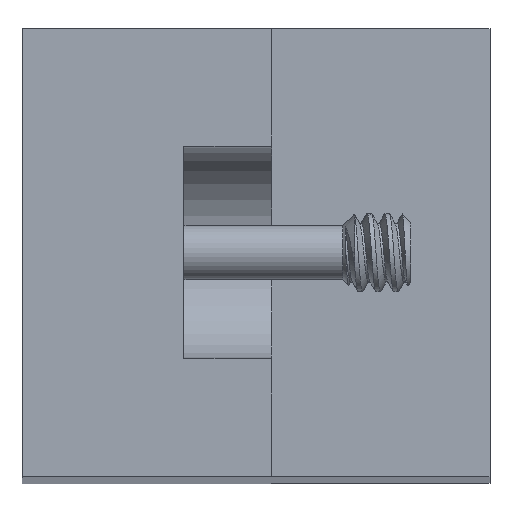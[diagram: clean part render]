
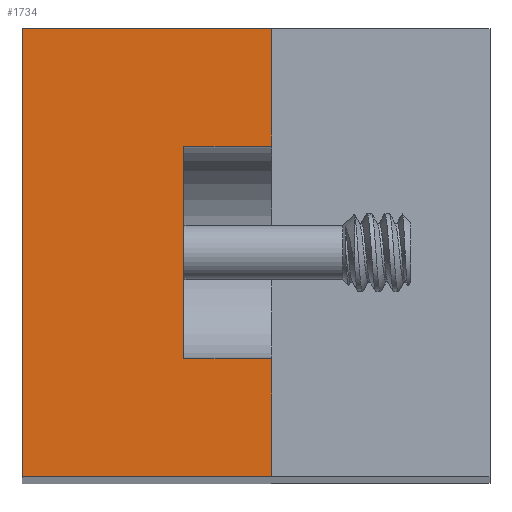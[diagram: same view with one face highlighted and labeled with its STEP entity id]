
A CAD part, top view. The second image highlights one B-rep face of the part: STEP entity #1734.
In plain terms, the highlighted planar face has unit normal (0, 0, 1) as drawn and (0, 1, 0) by its records, which use the part's own axes.
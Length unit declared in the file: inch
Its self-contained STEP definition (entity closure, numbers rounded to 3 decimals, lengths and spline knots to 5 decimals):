
#1561=CARTESIAN_POINT('',(0.2075,7.215,-0.285));
#1562=VERTEX_POINT('',#1561);
#1577=CARTESIAN_POINT('',(0.2075,7.215,-0.44));
#1578=VERTEX_POINT('',#1577);
#1585=CARTESIAN_POINT('',(0.2075,7.215,-0.285));
#1586=DIRECTION('',(0.0,0.0,-1.0));
#1587=VECTOR('',#1586,0.155);
#1588=LINE('',#1585,#1587);
#1589=EDGE_CURVE('',#1562,#1578,#1588,.T.);
#1599=CARTESIAN_POINT('',(0.5825,7.215,-0.285));
#1600=VERTEX_POINT('',#1599);
#1609=CARTESIAN_POINT('',(0.5825,7.215,-0.44));
#1610=VERTEX_POINT('',#1609);
#1611=CARTESIAN_POINT('',(0.5825,7.215,-0.44));
#1612=DIRECTION('',(0.0,0.0,1.0));
#1613=VECTOR('',#1612,0.155);
#1614=LINE('',#1611,#1613);
#1615=EDGE_CURVE('',#1610,#1600,#1614,.T.);
#1664=CARTESIAN_POINT('',(0.5825,7.215,-0.285));
#1665=DIRECTION('',(-1.0,0.0,0.0));
#1666=VECTOR('',#1665,0.375);
#1667=LINE('',#1664,#1666);
#1668=EDGE_CURVE('',#1600,#1562,#1667,.T.);
#1686=CARTESIAN_POINT('',(0.79,7.215,0.0));
#1687=DIRECTION('',(0.0,1.0,0.0));
#1688=DIRECTION('',(0.0,0.0,1.0));
#1689=AXIS2_PLACEMENT_3D('',#1686,#1687,#1688);
#1690=PLANE('',#1689);
#1691=ORIENTED_EDGE('',*,*,#1615,.T.);
#1692=ORIENTED_EDGE('',*,*,#1668,.T.);
#1693=ORIENTED_EDGE('',*,*,#1589,.T.);
#1694=CARTESIAN_POINT('',(0.0,7.215,-0.44));
#1695=VERTEX_POINT('',#1694);
#1696=CARTESIAN_POINT('',(0.2075,7.215,-0.44));
#1697=DIRECTION('',(-1.0,0.0,0.0));
#1698=VECTOR('',#1697,0.2075);
#1699=LINE('',#1696,#1698);
#1700=EDGE_CURVE('',#1578,#1695,#1699,.T.);
#1701=ORIENTED_EDGE('',*,*,#1700,.T.);
#1702=CARTESIAN_POINT('',(0.0,7.215,0.0));
#1703=VERTEX_POINT('',#1702);
#1704=CARTESIAN_POINT('',(0.0,7.215,0.0));
#1705=DIRECTION('',(0.0,0.0,-1.0));
#1706=VECTOR('',#1705,0.44);
#1707=LINE('',#1704,#1706);
#1708=EDGE_CURVE('',#1703,#1695,#1707,.T.);
#1709=ORIENTED_EDGE('',*,*,#1708,.F.);
#1710=CARTESIAN_POINT('',(0.79,7.215,0.0));
#1711=VERTEX_POINT('',#1710);
#1712=CARTESIAN_POINT('',(0.79,7.215,0.0));
#1713=DIRECTION('',(-1.0,0.0,0.0));
#1714=VECTOR('',#1713,0.79);
#1715=LINE('',#1712,#1714);
#1716=EDGE_CURVE('',#1711,#1703,#1715,.T.);
#1717=ORIENTED_EDGE('',*,*,#1716,.F.);
#1718=CARTESIAN_POINT('',(0.79,7.215,-0.44));
#1719=VERTEX_POINT('',#1718);
#1720=CARTESIAN_POINT('',(0.79,7.215,0.0));
#1721=DIRECTION('',(0.0,0.0,-1.0));
#1722=VECTOR('',#1721,0.44);
#1723=LINE('',#1720,#1722);
#1724=EDGE_CURVE('',#1711,#1719,#1723,.T.);
#1725=ORIENTED_EDGE('',*,*,#1724,.T.);
#1726=CARTESIAN_POINT('',(0.79,7.215,-0.44));
#1727=DIRECTION('',(-1.0,0.0,0.0));
#1728=VECTOR('',#1727,0.2075);
#1729=LINE('',#1726,#1728);
#1730=EDGE_CURVE('',#1719,#1610,#1729,.T.);
#1731=ORIENTED_EDGE('',*,*,#1730,.T.);
#1732=EDGE_LOOP('',(#1691,#1692,#1693,#1701,#1709,#1717,#1725,#1731));
#1733=FACE_OUTER_BOUND('',#1732,.T.);
#1734=ADVANCED_FACE('',(#1733),#1690,.T.);
